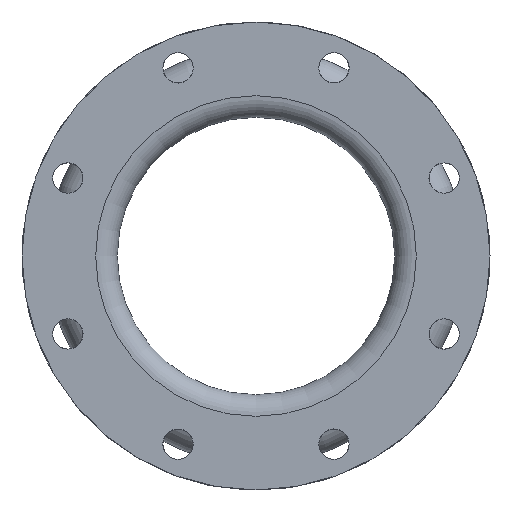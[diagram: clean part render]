
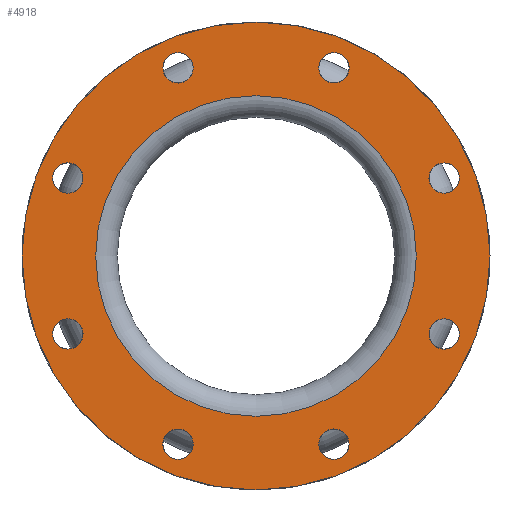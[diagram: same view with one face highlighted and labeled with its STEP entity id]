
A CAD part, left-side view. The second image highlights one B-rep face of the part: STEP entity #4918.
In plain terms, the highlighted planar face has unit normal (-1, 0, 0).
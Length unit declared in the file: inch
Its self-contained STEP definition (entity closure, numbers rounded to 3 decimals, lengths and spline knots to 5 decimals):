
#93=FACE_BOUND('',#893,.T.);
#94=FACE_BOUND('',#894,.T.);
#95=FACE_BOUND('',#895,.T.);
#96=FACE_BOUND('',#896,.T.);
#97=FACE_BOUND('',#897,.T.);
#98=FACE_BOUND('',#898,.T.);
#99=FACE_BOUND('',#899,.T.);
#100=FACE_BOUND('',#900,.T.);
#101=FACE_BOUND('',#901,.T.);
#549=FACE_OUTER_BOUND('',#892,.T.);
#892=EDGE_LOOP('',(#3766));
#893=EDGE_LOOP('',(#3767));
#894=EDGE_LOOP('',(#3768));
#895=EDGE_LOOP('',(#3769));
#896=EDGE_LOOP('',(#3770));
#897=EDGE_LOOP('',(#3771));
#898=EDGE_LOOP('',(#3772));
#899=EDGE_LOOP('',(#3773));
#900=EDGE_LOOP('',(#3774));
#901=EDGE_LOOP('',(#3775));
#1743=CIRCLE('',#5343,0.4375);
#1745=CIRCLE('',#5346,0.4375);
#1747=CIRCLE('',#5349,0.4375);
#1749=CIRCLE('',#5352,0.4375);
#1751=CIRCLE('',#5355,0.4375);
#1753=CIRCLE('',#5358,0.4375);
#1755=CIRCLE('',#5361,0.4375);
#1757=CIRCLE('',#5364,0.4375);
#1789=CIRCLE('',#5419,4.625);
#1790=CIRCLE('',#5421,6.75);
#2189=VERTEX_POINT('',#8103);
#2191=VERTEX_POINT('',#8108);
#2193=VERTEX_POINT('',#8113);
#2195=VERTEX_POINT('',#8118);
#2197=VERTEX_POINT('',#8123);
#2199=VERTEX_POINT('',#8128);
#2201=VERTEX_POINT('',#8133);
#2203=VERTEX_POINT('',#8138);
#2235=VERTEX_POINT('',#8225);
#2236=VERTEX_POINT('',#8228);
#2755=EDGE_CURVE('',#2189,#2189,#1743,.T.);
#2757=EDGE_CURVE('',#2191,#2191,#1745,.T.);
#2759=EDGE_CURVE('',#2193,#2193,#1747,.T.);
#2761=EDGE_CURVE('',#2195,#2195,#1749,.T.);
#2763=EDGE_CURVE('',#2197,#2197,#1751,.T.);
#2765=EDGE_CURVE('',#2199,#2199,#1753,.T.);
#2767=EDGE_CURVE('',#2201,#2201,#1755,.T.);
#2769=EDGE_CURVE('',#2203,#2203,#1757,.T.);
#2801=EDGE_CURVE('',#2235,#2235,#1789,.T.);
#2802=EDGE_CURVE('',#2236,#2236,#1790,.T.);
#3766=ORIENTED_EDGE('',*,*,#2802,.F.);
#3767=ORIENTED_EDGE('',*,*,#2801,.T.);
#3768=ORIENTED_EDGE('',*,*,#2755,.T.);
#3769=ORIENTED_EDGE('',*,*,#2757,.T.);
#3770=ORIENTED_EDGE('',*,*,#2759,.T.);
#3771=ORIENTED_EDGE('',*,*,#2761,.T.);
#3772=ORIENTED_EDGE('',*,*,#2763,.T.);
#3773=ORIENTED_EDGE('',*,*,#2765,.T.);
#3774=ORIENTED_EDGE('',*,*,#2767,.T.);
#3775=ORIENTED_EDGE('',*,*,#2769,.T.);
#4464=PLANE('',#5420);
#4918=ADVANCED_FACE('',(#549,#93,#94,#95,#96,#97,#98,#99,#100,#101),#4464,
 .T.);
#5343=AXIS2_PLACEMENT_3D('',#8104,#6437,#6438);
#5346=AXIS2_PLACEMENT_3D('',#8109,#6443,#6444);
#5349=AXIS2_PLACEMENT_3D('',#8114,#6449,#6450);
#5352=AXIS2_PLACEMENT_3D('',#8119,#6455,#6456);
#5355=AXIS2_PLACEMENT_3D('',#8124,#6461,#6462);
#5358=AXIS2_PLACEMENT_3D('',#8129,#6467,#6468);
#5361=AXIS2_PLACEMENT_3D('',#8134,#6473,#6474);
#5364=AXIS2_PLACEMENT_3D('',#8139,#6479,#6480);
#5419=AXIS2_PLACEMENT_3D('',#8226,#6589,#6590);
#5420=AXIS2_PLACEMENT_3D('',#8227,#6591,#6592);
#5421=AXIS2_PLACEMENT_3D('',#8229,#6593,#6594);
#6437=DIRECTION('center_axis',(1.,0.,0.));
#6438=DIRECTION('ref_axis',(0.,-0.707,0.707));
#6443=DIRECTION('center_axis',(1.,0.,0.));
#6444=DIRECTION('ref_axis',(0.,0.,
1.));
#6449=DIRECTION('center_axis',(1.,0.,0.));
#6450=DIRECTION('ref_axis',(0.,0.707,0.707));
#6455=DIRECTION('center_axis',(1.,0.,0.));
#6456=DIRECTION('ref_axis',(0.,1.,0.));
#6461=DIRECTION('center_axis',(1.,0.,0.));
#6462=DIRECTION('ref_axis',(0.,0.707,-0.707));
#6467=DIRECTION('center_axis',(1.,0.,0.));
#6468=DIRECTION('ref_axis',(0.,0.,-1.));
#6473=DIRECTION('center_axis',(1.,0.,0.));
#6474=DIRECTION('ref_axis',(0.,-0.707,-0.707));
#6479=DIRECTION('center_axis',(1.,0.,0.));
#6480=DIRECTION('ref_axis',(0.,-1.,0.));
#6589=DIRECTION('center_axis',(1.,0.,0.));
#6590=DIRECTION('ref_axis',(0.,0.,-1.));
#6591=DIRECTION('center_axis',(-1.,0.,0.));
#6592=DIRECTION('ref_axis',(0.,0.,1.));
#6593=DIRECTION('center_axis',(1.,0.,0.));
#6594=DIRECTION('ref_axis',(0.,0.,-1.));
#8103=CARTESIAN_POINT('',(-7.,2.55762,-5.73715));
#8104=CARTESIAN_POINT('Origin',(-7.,2.24827,-5.42779));
#8108=CARTESIAN_POINT('',(-7.,-2.24827,-5.86529));
#8109=CARTESIAN_POINT('Origin',(-7.,-2.24827,-5.42779));
#8113=CARTESIAN_POINT('',(-7.,-5.73715,-2.55762));
#8114=CARTESIAN_POINT('Origin',(-7.,-5.42779,-2.24827));
#8118=CARTESIAN_POINT('',(-7.,-5.86529,2.24827));
#8119=CARTESIAN_POINT('Origin',(-7.,-5.42779,2.24827));
#8123=CARTESIAN_POINT('',(-7.,-2.55762,5.73715));
#8124=CARTESIAN_POINT('Origin',(-7.,-2.24827,5.42779));
#8128=CARTESIAN_POINT('',(-7.,2.24827,5.86529));
#8129=CARTESIAN_POINT('Origin',(-7.,2.24827,5.42779));
#8133=CARTESIAN_POINT('',(-7.,5.73715,2.55762));
#8134=CARTESIAN_POINT('Origin',(-7.,5.42779,2.24827));
#8138=CARTESIAN_POINT('',(-7.,5.86529,-2.24827));
#8139=CARTESIAN_POINT('Origin',(-7.,5.42779,-2.24827));
#8225=CARTESIAN_POINT('',(-7.,4.625,0.));
#8226=CARTESIAN_POINT('Origin',(-7.,0.,0.));
#8227=CARTESIAN_POINT('Origin',(-7.,6.75,0.));
#8228=CARTESIAN_POINT('',(-7.,6.75,0.));
#8229=CARTESIAN_POINT('Origin',(-7.,0.,0.));
